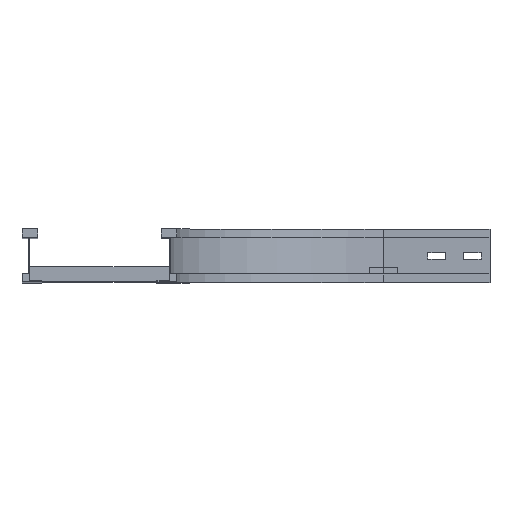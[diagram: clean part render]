
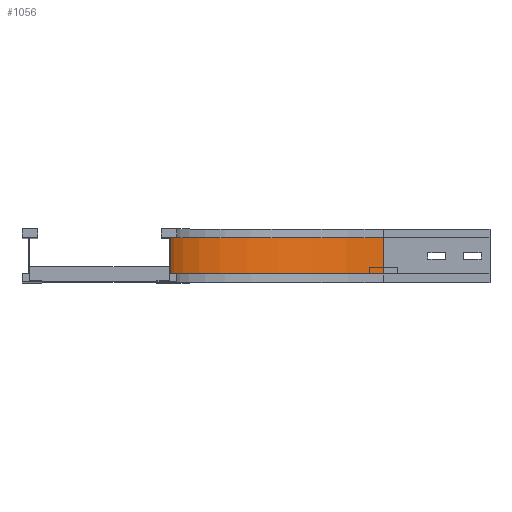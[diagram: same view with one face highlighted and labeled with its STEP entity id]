
A CAD part, top view. The second image highlights one B-rep face of the part: STEP entity #1056.
In plain terms, the highlighted cylindrical face has radius 300 mm (diameter 600 mm), a partial arc.
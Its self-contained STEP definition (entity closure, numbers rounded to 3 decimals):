
#129 = ORIENTED_EDGE ( 'NONE', *, *, #2153, .T. ) ;
#130 = DIRECTION ( 'NONE',  ( -1., 0., 0. ) ) ;
#226 = DIRECTION ( 'NONE',  ( 0., 1., 0. ) ) ;
#247 = CARTESIAN_POINT ( 'NONE',  ( 291., 63., -450. ) ) ;
#298 = AXIS2_PLACEMENT_3D ( 'NONE', #1829, #2304, #1538 ) ;
#369 = DIRECTION ( 'NONE',  ( 0., -1., 0. ) ) ;
#421 = EDGE_CURVE ( 'NONE', #2019, #1800, #1445, .T. ) ;
#624 = VECTOR ( 'NONE', #226, 1000. ) ;
#697 = ORIENTED_EDGE ( 'NONE', *, *, #421, .T. ) ;
#743 = CARTESIAN_POINT ( 'NONE',  ( -9., 12., -150. ) ) ;
#856 = CARTESIAN_POINT ( 'NONE',  ( -9., 63., -150. ) ) ;
#909 = AXIS2_PLACEMENT_3D ( 'NONE', #2063, #2536, #1106 ) ;
#955 = CARTESIAN_POINT ( 'NONE',  ( -9., 12., -150. ) ) ;
#1056 = ADVANCED_FACE ( 'NONE', ( #2836 ), #2820, .F. ) ;
#1106 = DIRECTION ( 'NONE',  ( 0., 0., -1. ) ) ;
#1286 = VERTEX_POINT ( 'NONE', #856 ) ;
#1339 = CARTESIAN_POINT ( 'NONE',  ( 291., 12., -150. ) ) ;
#1346 = DIRECTION ( 'NONE',  ( 0., 1., 0. ) ) ;
#1445 = CIRCLE ( 'NONE', #2526, 300. ) ;
#1538 = DIRECTION ( 'NONE',  ( -1., 0., 0. ) ) ;
#1759 = LINE ( 'NONE', #955, #624 ) ;
#1800 = VERTEX_POINT ( 'NONE', #2306 ) ;
#1828 = CARTESIAN_POINT ( 'NONE',  ( 291., 12., -450. ) ) ;
#1829 = CARTESIAN_POINT ( 'NONE',  ( 291., 63., -150. ) ) ;
#1846 = EDGE_LOOP ( 'NONE', ( #2705, #2739, #697, #129 ) ) ;
#2019 = VERTEX_POINT ( 'NONE', #743 ) ;
#2063 = CARTESIAN_POINT ( 'NONE',  ( 291., 0., -150. ) ) ;
#2153 = EDGE_CURVE ( 'NONE', #1800, #3137, #2503, .T. ) ;
#2218 = CIRCLE ( 'NONE', #298, 300. ) ;
#2304 = DIRECTION ( 'NONE',  ( 0., -1., 0. ) ) ;
#2306 = CARTESIAN_POINT ( 'NONE',  ( 291., 12., -450. ) ) ;
#2355 = EDGE_CURVE ( 'NONE', #2019, #1286, #1759, .T. ) ;
#2503 = LINE ( 'NONE', #1828, #3227 ) ;
#2526 = AXIS2_PLACEMENT_3D ( 'NONE', #1339, #369, #130 ) ;
#2536 = DIRECTION ( 'NONE',  ( 0., -1., 0. ) ) ;
#2705 = ORIENTED_EDGE ( 'NONE', *, *, #2959, .F. ) ;
#2739 = ORIENTED_EDGE ( 'NONE', *, *, #2355, .F. ) ;
#2820 = CYLINDRICAL_SURFACE ( 'NONE', #909, 300. ) ;
#2836 = FACE_OUTER_BOUND ( 'NONE', #1846, .T. ) ;
#2959 = EDGE_CURVE ( 'NONE', #1286, #3137, #2218, .T. ) ;
#3137 = VERTEX_POINT ( 'NONE', #247 ) ;
#3227 = VECTOR ( 'NONE', #1346, 1000. ) ;
